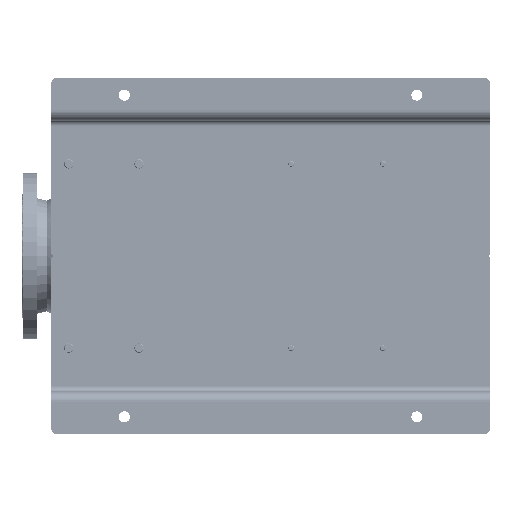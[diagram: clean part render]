
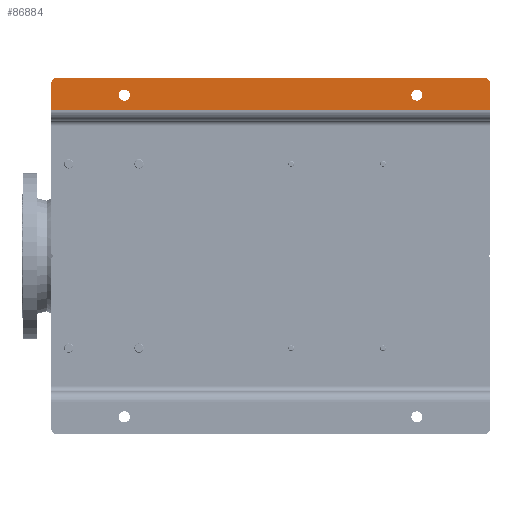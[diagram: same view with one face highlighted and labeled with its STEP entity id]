
A CAD part, front view. The second image highlights one B-rep face of the part: STEP entity #86884.
In plain terms, the highlighted planar face has unit normal (0, -1, 0).
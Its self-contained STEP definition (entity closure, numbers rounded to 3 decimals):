
#5712 = DIRECTION ( 'NONE',  ( 0., 0., -1. ) ) ;
#9807 = DIRECTION ( 'NONE',  ( 0., 1., 0. ) ) ;
#10136 = VERTEX_POINT ( 'NONE', #154157 ) ;
#14791 = VECTOR ( 'NONE', #17772, 1000. ) ;
#17586 = DIRECTION ( 'NONE',  ( 0., -1., 0. ) ) ;
#17772 = DIRECTION ( 'NONE',  ( 0., 0., 1. ) ) ;
#22944 = CARTESIAN_POINT ( 'NONE',  ( 537., 0., 0. ) ) ;
#25613 = DIRECTION ( 'NONE',  ( 0., 0., -1. ) ) ;
#26098 = VERTEX_POINT ( 'NONE', #94643 ) ;
#29301 = EDGE_CURVE ( 'NONE', #46186, #81384, #171206, .T. ) ;
#31266 = CARTESIAN_POINT ( 'NONE',  ( 570.5, 0., -125. ) ) ;
#32329 = CARTESIAN_POINT ( 'NONE',  ( 600., 0., -10. ) ) ;
#32855 = PLANE ( 'NONE',  #126383 ) ;
#33749 = FACE_BOUND ( 'NONE', #90616, .T. ) ;
#34948 = LINE ( 'NONE', #22944, #89370 ) ;
#40034 = ORIENTED_EDGE ( 'NONE', *, *, #47208, .T. ) ;
#41169 = CARTESIAN_POINT ( 'NONE',  ( 537., 0., -750. ) ) ;
#42214 = EDGE_CURVE ( 'NONE', #160390, #26098, #61051, .T. ) ;
#43397 = CIRCLE ( 'NONE', #81730, 10. ) ;
#45431 = CARTESIAN_POINT ( 'NONE',  ( 610., 0., -750. ) ) ;
#46186 = VERTEX_POINT ( 'NONE', #144056 ) ;
#46717 = ORIENTED_EDGE ( 'NONE', *, *, #75875, .T. ) ;
#47208 = EDGE_CURVE ( 'NONE', #81384, #46186, #48838, .T. ) ;
#47583 = FACE_OUTER_BOUND ( 'NONE', #152155, .T. ) ;
#48379 = AXIS2_PLACEMENT_3D ( 'NONE', #158853, #174513, #5712 ) ;
#48673 = VERTEX_POINT ( 'NONE', #72464 ) ;
#48838 = CIRCLE ( 'NONE', #87150, 9.5 ) ;
#48988 = CARTESIAN_POINT ( 'NONE',  ( 600., 0., -740. ) ) ;
#52919 = ORIENTED_EDGE ( 'NONE', *, *, #29301, .T. ) ;
#55828 = ORIENTED_EDGE ( 'NONE', *, *, #157475, .F. ) ;
#60984 = DIRECTION ( 'NONE',  ( 0., 0., -1. ) ) ;
#61051 = LINE ( 'NONE', #45431, #14791 ) ;
#61509 = LINE ( 'NONE', #132594, #88567 ) ;
#61737 = CARTESIAN_POINT ( 'NONE',  ( 600., 0., 0. ) ) ;
#62308 = DIRECTION ( 'NONE',  ( 0., -1., 0. ) ) ;
#67759 = VERTEX_POINT ( 'NONE', #61737 ) ;
#68360 = EDGE_CURVE ( 'NONE', #48673, #128133, #61509, .T. ) ;
#72464 = CARTESIAN_POINT ( 'NONE',  ( 555., 0., 0. ) ) ;
#72651 = CIRCLE ( 'NONE', #166999, 10. ) ;
#75875 = EDGE_CURVE ( 'NONE', #82082, #10136, #145575, .T. ) ;
#81254 = EDGE_CURVE ( 'NONE', #10136, #82082, #105040, .T. ) ;
#81384 = VERTEX_POINT ( 'NONE', #153795 ) ;
#81730 = AXIS2_PLACEMENT_3D ( 'NONE', #32329, #17586, #126499 ) ;
#82082 = VERTEX_POINT ( 'NONE', #31266 ) ;
#83005 = VERTEX_POINT ( 'NONE', #147932 ) ;
#84849 = EDGE_CURVE ( 'NONE', #26098, #67759, #43397, .T. ) ;
#85314 = ORIENTED_EDGE ( 'NONE', *, *, #146337, .T. ) ;
#86884 = ADVANCED_FACE ( 'NONE', ( #134256, #33749, #47583 ), #32855, .T. ) ;
#87150 = AXIS2_PLACEMENT_3D ( 'NONE', #89632, #115515, #131169 ) ;
#88567 = VECTOR ( 'NONE', #104873, 1000. ) ;
#89370 = VECTOR ( 'NONE', #117968, 1000. ) ;
#89632 = CARTESIAN_POINT ( 'NONE',  ( 580., 0., -625. ) ) ;
#90616 = EDGE_LOOP ( 'NONE', ( #40034, #52919 ) ) ;
#93842 = ORIENTED_EDGE ( 'NONE', *, *, #68360, .T. ) ;
#93873 = CARTESIAN_POINT ( 'NONE',  ( 580., 0., -125. ) ) ;
#94643 = CARTESIAN_POINT ( 'NONE',  ( 610., 0., -10. ) ) ;
#94711 = EDGE_LOOP ( 'NONE', ( #46717, #141516 ) ) ;
#103358 = ORIENTED_EDGE ( 'NONE', *, *, #42214, .T. ) ;
#104873 = DIRECTION ( 'NONE',  ( 0., 0., -1. ) ) ;
#105040 = CIRCLE ( 'NONE', #163627, 9.5 ) ;
#105195 = CARTESIAN_POINT ( 'NONE',  ( 610., 0., -740. ) ) ;
#105251 = DIRECTION ( 'NONE',  ( 0., -1., 0. ) ) ;
#108552 = LINE ( 'NONE', #41169, #149465 ) ;
#111181 = DIRECTION ( 'NONE',  ( 0., 0., -1. ) ) ;
#111247 = DIRECTION ( 'NONE',  ( 1., 0., 0. ) ) ;
#115515 = DIRECTION ( 'NONE',  ( 0., 1., 0. ) ) ;
#117675 = ORIENTED_EDGE ( 'NONE', *, *, #84849, .T. ) ;
#117968 = DIRECTION ( 'NONE',  ( 1., 0., 0. ) ) ;
#118597 = DIRECTION ( 'NONE',  ( 0., 0., -1. ) ) ;
#126383 = AXIS2_PLACEMENT_3D ( 'NONE', #175749, #62308, #118597 ) ;
#126499 = DIRECTION ( 'NONE',  ( 0., 0., -1. ) ) ;
#128133 = VERTEX_POINT ( 'NONE', #151545 ) ;
#131169 = DIRECTION ( 'NONE',  ( 0., 0., -1. ) ) ;
#132594 = CARTESIAN_POINT ( 'NONE',  ( 555., 0., -750. ) ) ;
#134256 = FACE_BOUND ( 'NONE', #94711, .T. ) ;
#138871 = AXIS2_PLACEMENT_3D ( 'NONE', #177663, #9807, #111181 ) ;
#141516 = ORIENTED_EDGE ( 'NONE', *, *, #81254, .T. ) ;
#144056 = CARTESIAN_POINT ( 'NONE',  ( 589.5, 0., -625. ) ) ;
#145575 = CIRCLE ( 'NONE', #48379, 9.5 ) ;
#146337 = EDGE_CURVE ( 'NONE', #128133, #83005, #108552, .T. ) ;
#147932 = CARTESIAN_POINT ( 'NONE',  ( 600., 0., -750. ) ) ;
#149465 = VECTOR ( 'NONE', #111247, 1000. ) ;
#150155 = DIRECTION ( 'NONE',  ( 0., 1., 0. ) ) ;
#151545 = CARTESIAN_POINT ( 'NONE',  ( 555., 0., -750. ) ) ;
#152155 = EDGE_LOOP ( 'NONE', ( #55828, #93842, #85314, #171711, #103358, #117675 ) ) ;
#153795 = CARTESIAN_POINT ( 'NONE',  ( 570.5, 0., -625. ) ) ;
#154157 = CARTESIAN_POINT ( 'NONE',  ( 589.5, 0., -125. ) ) ;
#157475 = EDGE_CURVE ( 'NONE', #48673, #67759, #34948, .T. ) ;
#158853 = CARTESIAN_POINT ( 'NONE',  ( 580., 0., -125. ) ) ;
#160390 = VERTEX_POINT ( 'NONE', #105195 ) ;
#162700 = EDGE_CURVE ( 'NONE', #83005, #160390, #72651, .T. ) ;
#163627 = AXIS2_PLACEMENT_3D ( 'NONE', #93873, #150155, #25613 ) ;
#166999 = AXIS2_PLACEMENT_3D ( 'NONE', #48988, #105251, #60984 ) ;
#171206 = CIRCLE ( 'NONE', #138871, 9.5 ) ;
#171711 = ORIENTED_EDGE ( 'NONE', *, *, #162700, .T. ) ;
#174513 = DIRECTION ( 'NONE',  ( 0., 1., 0. ) ) ;
#175749 = CARTESIAN_POINT ( 'NONE',  ( 537., 0., -750. ) ) ;
#177663 = CARTESIAN_POINT ( 'NONE',  ( 580., 0., -625. ) ) ;
